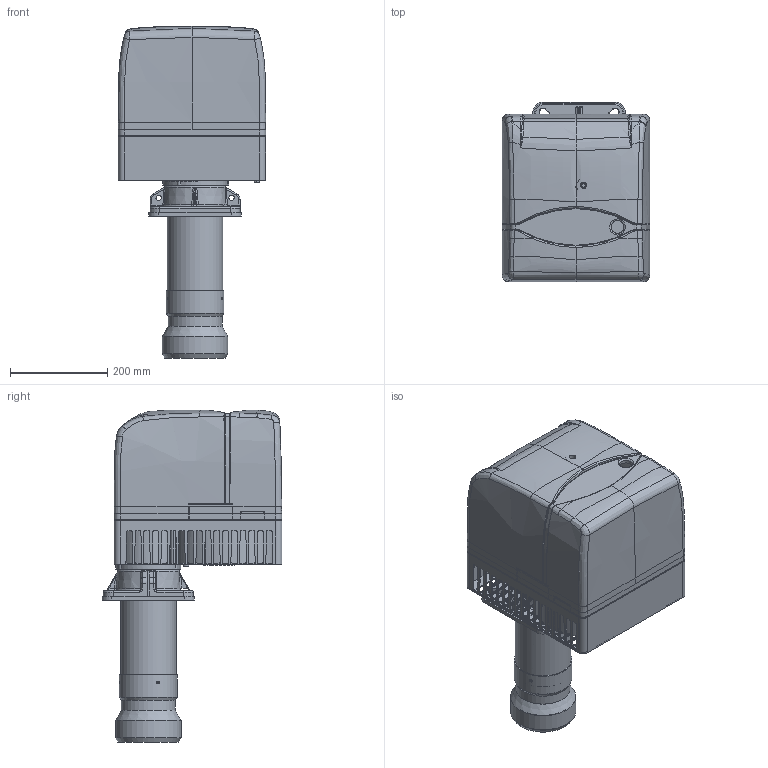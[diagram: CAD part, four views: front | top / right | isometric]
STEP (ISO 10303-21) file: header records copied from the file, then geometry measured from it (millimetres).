
FILE_DESCRIPTION (( 'STEP AP203' ), '1' );
FILE_NAME ('17160020-115109.STEP', '2017-04-04T08:50:10', ( '' ), ( '' ), 'SwSTEP 2.0', 'SolidWorks 2016', '' );
FILE_SCHEMA (( 'CONFIG_CONTROL_DESIGN' ));
Products named in the file (1): 17160020-115109
Bounding box: 303.33 x 370 x 683.46 mm (x, y, z)
Surface area: 1296265.2 mm2 (no closed solid volume)
Topology: 0 solids, 36 shells, 1016 faces, 4029 edges, 2835 vertices
Faces by surface type: plane 434, cylinder 320, bspline 227, torus 19, cone 16
Full cylindrical faces by diameter (mm): 3 x2, 3.3 x3, 3.7 x2, 4.8 x3, 10 x3, 11 x3, 11.2 x1, 65 x1, 107 x1, 111 x1, 114.3 x1, 114.8 x1, 115 x1, 118.8 x1, 131 x1, 135 x1
Entity records: 82614 total; most frequent: CARTESIAN_POINT 51304, ORIENTED_EDGE 6229, DIRECTION 5894, EDGE_CURVE 3976, VERTEX_POINT 2820, VECTOR 2006, LINE 2006, AXIS2_PLACEMENT_3D 1944
